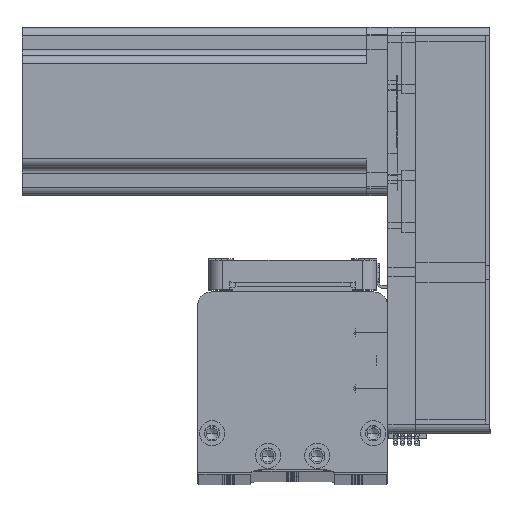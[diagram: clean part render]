
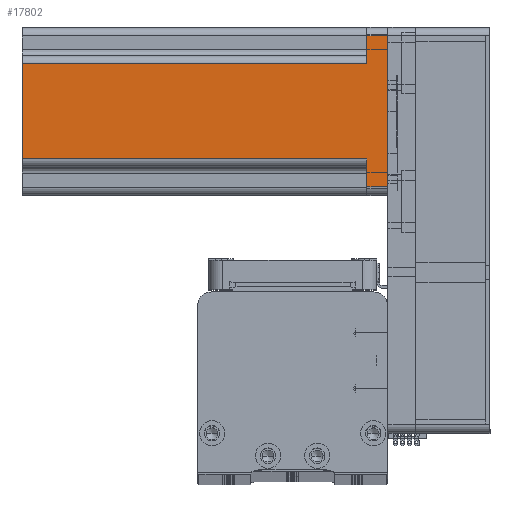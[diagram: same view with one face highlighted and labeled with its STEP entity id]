
A CAD part, top view. The second image highlights one B-rep face of the part: STEP entity #17802.
In plain terms, the highlighted planar face has unit normal (0, 0, 1) as drawn and (0, -1, 0) by its records, which use the part's own axes.
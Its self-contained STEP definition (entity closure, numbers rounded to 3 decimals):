
#194 = CARTESIAN_POINT ( 'NONE',  ( -27., -30., 0. ) ) ;
#393 = VERTEX_POINT ( 'NONE', #7476 ) ;
#971 = CARTESIAN_POINT ( 'NONE',  ( 27., -30., 130.7 ) ) ;
#2034 = EDGE_CURVE ( 'NONE', #53569, #29245, #38574, .T. ) ;
#3342 = VECTOR ( 'NONE', #3970, 1000. ) ;
#3970 = DIRECTION ( 'NONE',  ( 0., 0., -1. ) ) ;
#4719 = LINE ( 'NONE', #30229, #3342 ) ;
#7476 = CARTESIAN_POINT ( 'NONE',  ( 27., -30., 0. ) ) ;
#7855 = DIRECTION ( 'NONE',  ( 1., 0., 0. ) ) ;
#8477 = ORIENTED_EDGE ( 'NONE', *, *, #10751, .T. ) ;
#9587 = AXIS2_PLACEMENT_3D ( 'NONE', #19224, #50226, #23656 ) ;
#9787 = CARTESIAN_POINT ( 'NONE',  ( -20., -30., 7.5 ) ) ;
#10305 = LINE ( 'NONE', #34363, #51040 ) ;
#10751 = EDGE_CURVE ( 'NONE', #27864, #27312, #15043, .T. ) ;
#11600 = LINE ( 'NONE', #44205, #54466 ) ;
#11798 = LINE ( 'NONE', #971, #33931 ) ;
#12172 = LINE ( 'NONE', #9787, #46091 ) ;
#13042 = DIRECTION ( 'NONE',  ( 1., 0., 0. ) ) ;
#13194 = DIRECTION ( 'NONE',  ( 0., 0., 1. ) ) ;
#13764 = CARTESIAN_POINT ( 'NONE',  ( -27., -30., 7.5 ) ) ;
#15043 = LINE ( 'NONE', #17493, #26733 ) ;
#15298 = EDGE_CURVE ( 'NONE', #26577, #48386, #4719, .T. ) ;
#17493 = CARTESIAN_POINT ( 'NONE',  ( 20., -30., 7.5 ) ) ;
#17802 = ADVANCED_FACE ( 'NONE', ( #54655 ), #32410, .F. ) ;
#19224 = CARTESIAN_POINT ( 'NONE',  ( 30., -30., 130.7 ) ) ;
#20003 = CARTESIAN_POINT ( 'NONE',  ( -17., -30., 7.5 ) ) ;
#21869 = ORIENTED_EDGE ( 'NONE', *, *, #15298, .T. ) ;
#23127 = LINE ( 'NONE', #24183, #57076 ) ;
#23656 = DIRECTION ( 'NONE',  ( -1., 0., 0. ) ) ;
#24183 = CARTESIAN_POINT ( 'NONE',  ( -17., -30., 130.7 ) ) ;
#26498 = EDGE_CURVE ( 'NONE', #27312, #29245, #11600, .T. ) ;
#26577 = VERTEX_POINT ( 'NONE', #13764 ) ;
#26690 = ORIENTED_EDGE ( 'NONE', *, *, #45677, .T. ) ;
#26733 = VECTOR ( 'NONE', #44074, 1000. ) ;
#27261 = ORIENTED_EDGE ( 'NONE', *, *, #54308, .T. ) ;
#27312 = VERTEX_POINT ( 'NONE', #33624 ) ;
#27864 = VERTEX_POINT ( 'NONE', #51895 ) ;
#29245 = VERTEX_POINT ( 'NONE', #45595 ) ;
#30229 = CARTESIAN_POINT ( 'NONE',  ( -27., -30., 130.7 ) ) ;
#31125 = ORIENTED_EDGE ( 'NONE', *, *, #36310, .F. ) ;
#32410 = PLANE ( 'NONE',  #9587 ) ;
#33624 = CARTESIAN_POINT ( 'NONE',  ( 17., -30., 7.5 ) ) ;
#33728 = ORIENTED_EDGE ( 'NONE', *, *, #2034, .F. ) ;
#33931 = VECTOR ( 'NONE', #49305, 1000. ) ;
#34363 = CARTESIAN_POINT ( 'NONE',  ( 30., -30., 0. ) ) ;
#36310 = EDGE_CURVE ( 'NONE', #26577, #36546, #12172, .T. ) ;
#36399 = ORIENTED_EDGE ( 'NONE', *, *, #26498, .T. ) ;
#36546 = VERTEX_POINT ( 'NONE', #20003 ) ;
#38574 = LINE ( 'NONE', #48659, #48939 ) ;
#40352 = CARTESIAN_POINT ( 'NONE',  ( -17., -30., 130.7 ) ) ;
#40683 = EDGE_CURVE ( 'NONE', #393, #27864, #11798, .T. ) ;
#40792 = DIRECTION ( 'NONE',  ( 1., 0., 0. ) ) ;
#41186 = ORIENTED_EDGE ( 'NONE', *, *, #40683, .T. ) ;
#44074 = DIRECTION ( 'NONE',  ( -1., 0., 0. ) ) ;
#44205 = CARTESIAN_POINT ( 'NONE',  ( 17., -30., 130.7 ) ) ;
#45595 = CARTESIAN_POINT ( 'NONE',  ( 17., -30., 130.7 ) ) ;
#45677 = EDGE_CURVE ( 'NONE', #48386, #393, #10305, .T. ) ;
#46091 = VECTOR ( 'NONE', #40792, 1000. ) ;
#48386 = VERTEX_POINT ( 'NONE', #194 ) ;
#48659 = CARTESIAN_POINT ( 'NONE',  ( 30., -30., 130.7 ) ) ;
#48939 = VECTOR ( 'NONE', #13042, 1000. ) ;
#49305 = DIRECTION ( 'NONE',  ( 0., 0., 1. ) ) ;
#50226 = DIRECTION ( 'NONE',  ( 0., 1., 0. ) ) ;
#51040 = VECTOR ( 'NONE', #7855, 1000. ) ;
#51895 = CARTESIAN_POINT ( 'NONE',  ( 27., -30., 7.5 ) ) ;
#52190 = EDGE_LOOP ( 'NONE', ( #33728, #27261, #31125, #21869, #26690, #41186, #8477, #36399 ) ) ;
#53569 = VERTEX_POINT ( 'NONE', #40352 ) ;
#54308 = EDGE_CURVE ( 'NONE', #53569, #36546, #23127, .T. ) ;
#54466 = VECTOR ( 'NONE', #13194, 1000. ) ;
#54655 = FACE_OUTER_BOUND ( 'NONE', #52190, .T. ) ;
#55144 = DIRECTION ( 'NONE',  ( 0., 0., -1. ) ) ;
#57076 = VECTOR ( 'NONE', #55144, 1000. ) ;
